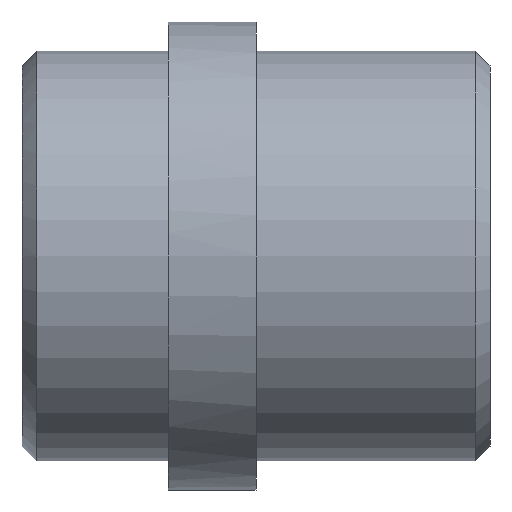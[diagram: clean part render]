
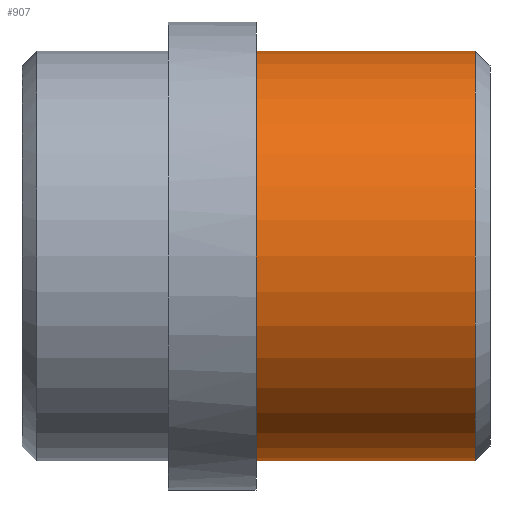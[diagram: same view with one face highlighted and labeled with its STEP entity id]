
A CAD part, front view. The second image highlights one B-rep face of the part: STEP entity #907.
In plain terms, the highlighted cylindrical face has radius 14 mm (diameter 28 mm), a partial arc.
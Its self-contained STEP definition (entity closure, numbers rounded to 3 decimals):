
#773=CARTESIAN_POINT('Vertex',(0.,0.,-14.)) ;
#778=CARTESIAN_POINT('Axis2P3D Location',(0.,0.,0.)) ;
#782=CARTESIAN_POINT('Vertex',(0.,-14.,0.)) ;
#785=CARTESIAN_POINT('Axis2P3D Location',(0.,0.,0.)) ;
#789=CARTESIAN_POINT('Vertex',(0.,0.,14.)) ;
#813=CARTESIAN_POINT('Vertex',(15.,0.,14.)) ;
#820=CARTESIAN_POINT('Vertex',(15.,0.,-14.)) ;
#849=CARTESIAN_POINT('Axis2P3D Location',(15.,0.,0.)) ;
#853=CARTESIAN_POINT('Vertex',(15.,-14.,0.)) ;
#856=CARTESIAN_POINT('Axis2P3D Location',(15.,0.,0.)) ;
#875=CARTESIAN_POINT('Line Origine',(7.5,0.,14.)) ;
#880=CARTESIAN_POINT('Line Origine',(7.5,0.,-14.)) ;
#894=CARTESIAN_POINT('Axis2P3D Location',(16.,0.,0.)) ;
#779=DIRECTION('Axis2P3D Direction',(1.,0.,-0.)) ;
#786=DIRECTION('Axis2P3D Direction',(1.,0.,-0.)) ;
#850=DIRECTION('Axis2P3D Direction',(-1.,0.,0.)) ;
#857=DIRECTION('Axis2P3D Direction',(-1.,0.,0.)) ;
#876=DIRECTION('Vector Direction',(-1.,0.,0.)) ;
#881=DIRECTION('Vector Direction',(-1.,0.,0.)) ;
#895=DIRECTION('Axis2P3D Direction',(-1.,-0.,-0.)) ;
#896=DIRECTION('Axis2P3D XDirection',(0.,0.,-1.)) ;
#780=AXIS2_PLACEMENT_3D('Circle Axis2P3D',#778,#779,$) ;
#787=AXIS2_PLACEMENT_3D('Circle Axis2P3D',#785,#786,$) ;
#851=AXIS2_PLACEMENT_3D('Circle Axis2P3D',#849,#850,$) ;
#858=AXIS2_PLACEMENT_3D('Circle Axis2P3D',#856,#857,$) ;
#897=AXIS2_PLACEMENT_3D('Cylinder Axis2P3D',#894,#895,#896) ;
#900=ORIENTED_EDGE('',*,*,#884,.T.) ;
#901=ORIENTED_EDGE('',*,*,#860,.F.) ;
#902=ORIENTED_EDGE('',*,*,#855,.F.) ;
#903=ORIENTED_EDGE('',*,*,#879,.T.) ;
#904=ORIENTED_EDGE('',*,*,#791,.T.) ;
#905=ORIENTED_EDGE('',*,*,#784,.T.) ;
#877=VECTOR('Line Direction',#876,1.) ;
#882=VECTOR('Line Direction',#881,1.) ;
#907=ADVANCED_FACE('G403-20X32',(#906),#898,.T.) ;
#781=CIRCLE('generated circle',#780,14.) ;
#788=CIRCLE('generated circle',#787,14.) ;
#852=CIRCLE('generated circle',#851,14.) ;
#859=CIRCLE('generated circle',#858,14.) ;
#898=CYLINDRICAL_SURFACE('generated cylinder',#897,14.) ;
#784=EDGE_CURVE('',#783,#774,#781,.T.) ;
#791=EDGE_CURVE('',#790,#783,#788,.T.) ;
#855=EDGE_CURVE('',#814,#854,#852,.F.) ;
#860=EDGE_CURVE('',#854,#821,#859,.F.) ;
#879=EDGE_CURVE('',#814,#790,#878,.T.) ;
#884=EDGE_CURVE('',#774,#821,#883,.F.) ;
#899=EDGE_LOOP('',(#900,#901,#902,#903,#904,#905)) ;
#906=FACE_OUTER_BOUND('',#899,.T.) ;
#878=LINE('Line',#875,#877) ;
#883=LINE('Line',#880,#882) ;
#774=VERTEX_POINT('',#773) ;
#783=VERTEX_POINT('',#782) ;
#790=VERTEX_POINT('',#789) ;
#814=VERTEX_POINT('',#813) ;
#821=VERTEX_POINT('',#820) ;
#854=VERTEX_POINT('',#853) ;
